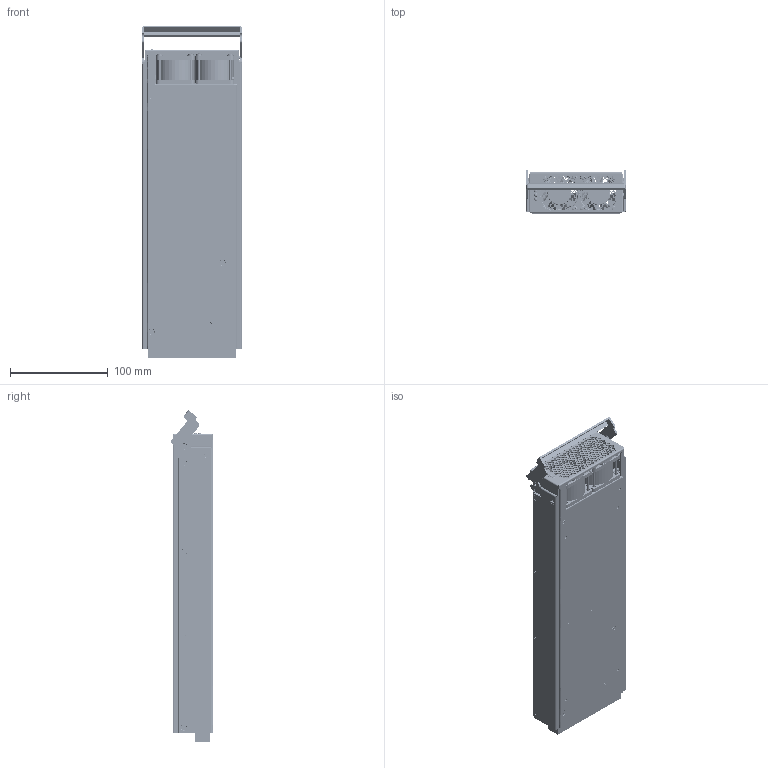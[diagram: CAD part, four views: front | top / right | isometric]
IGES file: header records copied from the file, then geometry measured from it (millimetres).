
Start section: SolidWorks IGES file using analytic representation for surfaces
Global section: file name: C:\Documents and Settings\behzar\Desktop\BEHZAR\PROJECTS\CURRENT-2010\SW-MODELS\SW-M\GFR1K5PS-12-24-48-56-L.IGS; native system: SolidWorks 2010; preprocessor: SolidWorks 2010; author: BEHZAR; date: 100621.170710; units: inch
Bounding box: 101.6 x 43.86 x 338.97 mm (x, y, z)
Surface area: 532237.3 mm2 (no closed solid volume)
Topology: 0 solids, 0 shells, 10816 faces, 104125 edges, 104112 vertices
Faces by surface type: bspline 8118, revolution 2698
